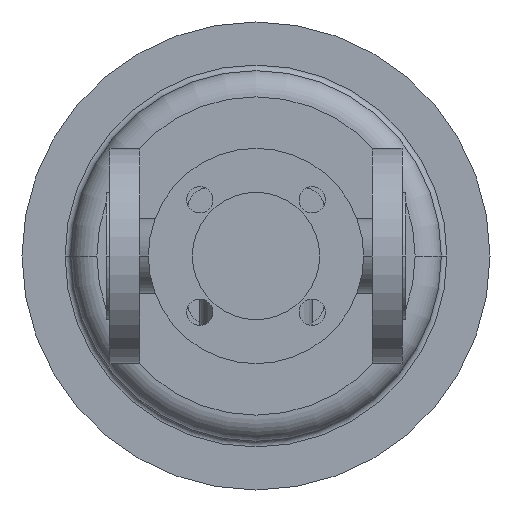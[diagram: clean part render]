
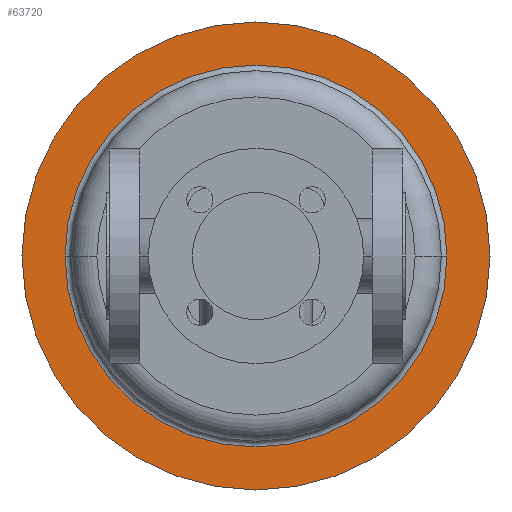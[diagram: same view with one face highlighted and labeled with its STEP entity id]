
A CAD part, front view. The second image highlights one B-rep face of the part: STEP entity #63720.
In plain terms, the highlighted planar face has unit normal (0, -1, 0).
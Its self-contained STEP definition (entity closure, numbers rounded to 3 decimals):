
#49110=CARTESIAN_POINT('',(-45.,572.,0.));
#49120=VERTEX_POINT('',#49110);
#49150=CARTESIAN_POINT('',(80.,572.,0.));
#49160=DIRECTION('',(0.,1.,0.));
#49170=DIRECTION('',(1.,0.,0.));
#49180=AXIS2_PLACEMENT_3D('',#49150,#49160,#49170);
#49190=CIRCLE('',#49180,125.);
#49200=CARTESIAN_POINT('',(205.,572.,0.));
#49210=VERTEX_POINT('',#49200);
#49220=EDGE_CURVE('',#49210,#49120,#49190,.T.);
#49470=CARTESIAN_POINT('',(80.,572.,0.));
#49480=DIRECTION('',(0.,1.,0.));
#49490=DIRECTION('',(1.,0.,0.));
#49500=AXIS2_PLACEMENT_3D('',#49470,#49480,#49490);
#49510=CIRCLE('',#49500,102.);
#49520=CARTESIAN_POINT('',(80.,572.,-102.));
#49530=VERTEX_POINT('',#49520);
#49540=CARTESIAN_POINT('',(-22.,572.,0.));
#49550=VERTEX_POINT('',#49540);
#49560=EDGE_CURVE('',#49530,#49550,#49510,.T.);
#49850=CARTESIAN_POINT('',(182.,572.,0.));
#49860=VERTEX_POINT('',#49850);
#49890=EDGE_CURVE('',#49860,#49530,#49510,.T.);
#63560=CARTESIAN_POINT('',(193.5,572.,0.));
#63570=DIRECTION('',(0.,-1.,0.));
#63580=DIRECTION('',(-1.,0.,0.));
#63590=AXIS2_PLACEMENT_3D('',#63560,#63570,#63580);
#63600=PLANE('',#63590);
#63610=ORIENTED_EDGE('',*,*,#49220,.F.);
#63620=EDGE_CURVE('',#49120,#49210,#49190,.T.);
#63630=ORIENTED_EDGE('',*,*,#63620,.F.);
#63640=EDGE_LOOP('',(#63630,#63610));
#63650=FACE_OUTER_BOUND('',#63640,.T.);
#63660=EDGE_CURVE('',#49550,#49860,#49510,.T.);
#63670=ORIENTED_EDGE('',*,*,#63660,.T.);
#63680=ORIENTED_EDGE('',*,*,#49560,.T.);
#63690=ORIENTED_EDGE('',*,*,#49890,.T.);
#63700=EDGE_LOOP('',(#63690,#63680,#63670));
#63710=FACE_BOUND('',#63700,.T.);
#63720=ADVANCED_FACE('',(#63650,#63710),#63600,.T.);
